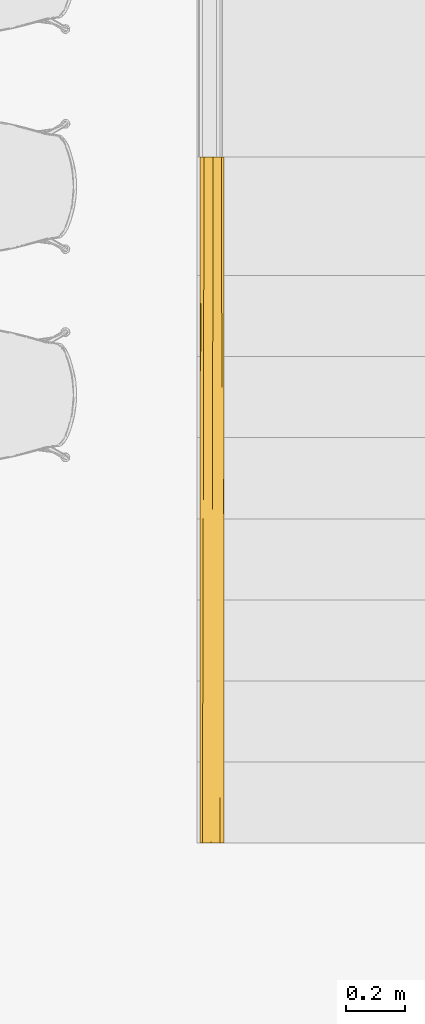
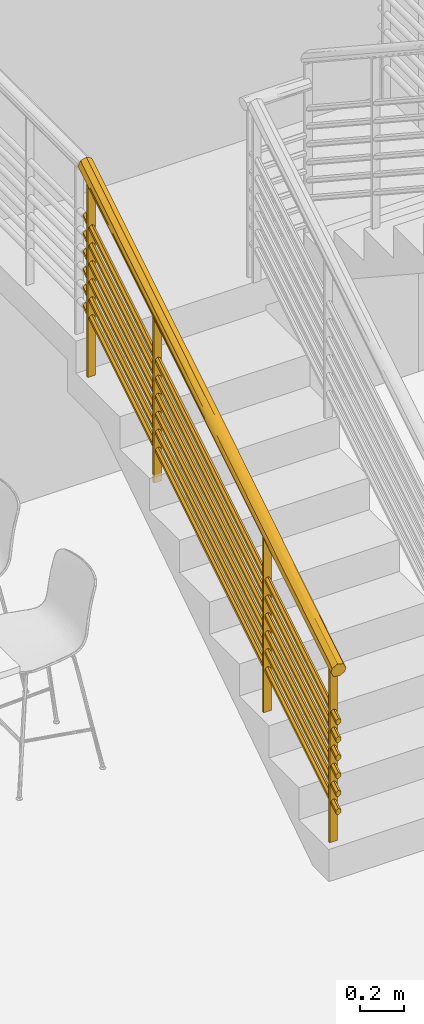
# One storey, part 20 of 40: 1 railing, 1 element without a shape of its own.
"""IFC2X3 building model written with IfcOpenShell, lengths in metres."""

from ifc_helpers import new_model, entity, si_unit, converted_unit, derived_unit, direction, frame, origin, place, context, subcontext, project, spatial, faceted_brep, material, material_list, element, aggregate, save


model = new_model("IFC2X3")

# Units and contexts
model_context = context("Model", 3, precision=1e-05, world=origin(), true_north=direction((6.12303176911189e-17, 1.0)))
body_context = subcontext(model_context, "Body", "Model", "MODEL_VIEW")
ifc_project = project(units=[si_unit("LENGTHUNIT", "METRE"), si_unit("AREAUNIT", "SQUARE_METRE"), si_unit("VOLUMEUNIT", "CUBIC_METRE"), converted_unit("PLANEANGLEUNIT", "DEGREE", entity("IfcRatioMeasure", 0.0174532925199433), si_unit("PLANEANGLEUNIT", "RADIAN"), dimensions=[0, 0, 0, 0, 0, 0, 0]), si_unit("MASSUNIT", "GRAM", prefix="KILO"), derived_unit("MASSDENSITYUNIT", [(si_unit("MASSUNIT", "GRAM", prefix="KILO"), 1), (si_unit("LENGTHUNIT", "METRE"), -3)]), si_unit("TIMEUNIT", "SECOND"), si_unit("FREQUENCYUNIT", "HERTZ"), si_unit("THERMODYNAMICTEMPERATUREUNIT", "DEGREE_CELSIUS"), derived_unit("THERMALTRANSMITTANCEUNIT", [(si_unit("MASSUNIT", "GRAM", prefix="KILO"), 1), (si_unit("THERMODYNAMICTEMPERATUREUNIT", "KELVIN"), -1), (si_unit("TIMEUNIT", "SECOND"), -3)]), derived_unit("VOLUMETRICFLOWRATEUNIT", [(si_unit("LENGTHUNIT", "METRE"), 3), (si_unit("TIMEUNIT", "SECOND"), -1)]), si_unit("ELECTRICCURRENTUNIT", "AMPERE"), si_unit("ELECTRICVOLTAGEUNIT", "VOLT"), si_unit("POWERUNIT", "WATT"), si_unit("FORCEUNIT", "NEWTON", prefix="KILO"), si_unit("ILLUMINANCEUNIT", "LUX"), si_unit("LUMINOUSFLUXUNIT", "LUMEN"), si_unit("LUMINOUSINTENSITYUNIT", "CANDELA"), derived_unit("USERDEFINED", [(si_unit("MASSUNIT", "GRAM", prefix="KILO"), -1), (si_unit("LENGTHUNIT", "METRE"), -2), (si_unit("TIMEUNIT", "SECOND"), 3), (si_unit("LUMINOUSFLUXUNIT", "LUMEN"), 1)]), derived_unit("LINEARVELOCITYUNIT", [(si_unit("LENGTHUNIT", "METRE"), 1), (si_unit("TIMEUNIT", "SECOND"), -1)]), si_unit("PRESSUREUNIT", "PASCAL"), derived_unit("USERDEFINED", [(si_unit("LENGTHUNIT", "METRE"), -2), (si_unit("MASSUNIT", "GRAM", prefix="KILO"), 1), (si_unit("TIMEUNIT", "SECOND"), -2)])], contexts=[model_context])

# Site, building, storey
site_placement = place(None, origin())
site = spatial("IfcSite", under=ifc_project, at=site_placement, Name="Surface", CompositionType="ELEMENT")
building_placement = place(site_placement, origin())
building = spatial("IfcBuilding", under=site, at=building_placement, CompositionType="ELEMENT")
storey_placement = place(building_placement, origin())
storey = spatial("IfcBuildingStorey", under=building, at=storey_placement, Name="RDC", CompositionType="ELEMENT", Elevation=-1.0941605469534e-13)

# Stair, railing
stair_placement = place(storey_placement, origin())
stair = element("IfcStair", 1, at=stair_placement, inside=storey, Name="Escalier:Monobloc", ObjectType="Escalier:Monobloc", ShapeType="NOTDEFINED")
ifc_material_1 = material(Name="Peinture - Grise")
ifc_material_2 = material(Name="Pin (1)")
ifc_material_list = material_list([ifc_material_1, ifc_material_2])
railing_placement = place(stair_placement, frame((1.30591583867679, 4.24201067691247, 0.178823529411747)))
railing = element("IfcRailing", 2, at=railing_placement, material=ifc_material_list, Name="Garde-corps:Type Bateau escalier 2", ObjectType="Garde-corps:Type Bateau escalier 2", PredefinedType="NOTDEFINED", context=body_context, shape_type="Brep", body=[
    faceted_brep([(0.0215952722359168, 1.65850000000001, 1.96334663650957), (0.0215952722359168, 1.64650000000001, 1.96334663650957), (0.0615952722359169, 1.64650000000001, 1.96334663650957), (0.0615952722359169, 1.65850000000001, 1.96334663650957), (0.0215952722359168, 1.65850000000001, 1.02875926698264), (0.0615952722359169, 1.65850000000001, 1.02875926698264), (0.0615952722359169, 1.64650000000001, 1.02875926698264), (0.0215952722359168, 1.64650000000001, 1.02875926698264)], [[[0, 1, 2, 3]], [[4, 5, 6, 7]], [[1, 0, 4, 7]], [[2, 1, 7, 6]], [[3, 2, 6, 5]], [[0, 3, 5, 4]]]),
    faceted_brep([(0.0215952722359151, 0.65850000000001, 1.34751680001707), (0.0215952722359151, 0.646500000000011, 1.34751680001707), (0.0615952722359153, 0.646500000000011, 1.34751680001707), (0.0615952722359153, 0.65850000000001, 1.34751680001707), (0.0215952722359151, 0.65850000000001, 0.357647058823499), (0.0615952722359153, 0.65850000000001, 0.357647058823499), (0.0615952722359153, 0.646500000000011, 0.357647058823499), (0.0215952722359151, 0.646500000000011, 0.357647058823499)], [[[0, 1, 2, 3]], [[4, 5, 6, 7]], [[1, 0, 4, 7]], [[2, 1, 7, 6]], [[3, 2, 6, 5]], [[0, 3, 5, 4]]]),
    faceted_brep([(0.0215952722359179, 2.26100000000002, 2.3343841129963), (0.0215952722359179, 2.24900000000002, 2.3343841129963), (0.061595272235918, 2.24900000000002, 2.3343841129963), (0.061595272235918, 2.26100000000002, 2.3343841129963), (0.0215952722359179, 2.26100000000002, 1.25176470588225), (0.061595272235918, 2.26100000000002, 1.25176470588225), (0.061595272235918, 2.24900000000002, 1.25176470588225), (0.0215952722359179, 2.24900000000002, 1.25176470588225)], [[[0, 1, 2, 3]], [[4, 5, 6, 7]], [[1, 0, 4, 7]], [[2, 1, 7, 6]], [[3, 2, 6, 5]], [[0, 3, 5, 4]]]),
    faceted_brep([(0.0215952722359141, 0.0560000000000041, 0.97647932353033), (0.0215952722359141, 0.0440000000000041, 0.97647932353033), (0.0615952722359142, 0.0440000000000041, 0.97647932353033), (0.0615952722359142, 0.0560000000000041, 0.97647932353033), (0.0215952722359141, 0.0560000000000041, 0.0), (0.0615952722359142, 0.0560000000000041, 0.0), (0.0615952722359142, 0.0440000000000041, 0.0), (0.0215952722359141, 0.0440000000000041, 0.0)], [[[0, 1, 2, 3]], [[4, 5, 6, 7]], [[1, 0, 4, 7]], [[2, 1, 7, 6]], [[3, 2, 6, 5]], [[0, 3, 5, 4]]]),
    faceted_brep([(0.0450328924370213, 0.0, 0.678198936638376), (0.0484705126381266, 0.0, 0.680529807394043), (0.0515280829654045, 0.0, 0.682602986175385), (0.0545856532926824, 0.0, 0.684676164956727), (0.0545856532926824, 0.0, 0.689080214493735), (0.0545856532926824, 0.0, 0.693484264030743), (0.0545856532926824, 0.0, 0.697888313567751), (0.0545856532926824, 0.0, 0.702292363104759), (0.0513380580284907, 0.0, 0.704494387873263), (0.0480904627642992, 0.0, 0.706696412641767), (0.0448428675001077, 0.0, 0.708898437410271), (0.041595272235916, 0.0, 0.711100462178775), (0.0381576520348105, 0.0, 0.708769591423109), (0.0351000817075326, 0.0, 0.706696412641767), (0.0318524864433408, 0.0, 0.704494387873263), (0.0286048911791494, 0.0, 0.702292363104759), (0.0286048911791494, 0.0, 0.697888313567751), (0.0286048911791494, 0.0, 0.693484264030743), (0.0286048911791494, 0.0, 0.689080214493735), (0.0286048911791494, 0.0, 0.684676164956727), (0.0318524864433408, 0.0, 0.682474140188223), (0.0351000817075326, 0.0, 0.680272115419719), (0.038157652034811, 0.0, 0.678198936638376), (0.0415952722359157, 0.0, 0.675868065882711), (0.0383476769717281, 2.30500000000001, 2.09755786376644), (0.0351000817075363, 2.30500000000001, 2.09975988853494), (0.0318524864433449, 2.30500000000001, 2.10196191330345), (0.0286048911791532, 2.30500000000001, 2.10416393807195), (0.0286048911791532, 2.30500000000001, 2.10856798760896), (0.0286048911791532, 2.30500000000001, 2.11297203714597), (0.0286048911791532, 2.30500000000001, 2.11737608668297), (0.0286048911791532, 2.30500000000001, 2.12178013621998), (0.0316624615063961, 2.30500000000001, 2.1238533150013), (0.0347200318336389, 2.30500000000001, 2.12592649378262), (0.0381576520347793, 2.30500000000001, 2.12825736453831), (0.0415952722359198, 2.30500000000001, 2.130588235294), (0.0450328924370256, 2.30500000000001, 2.12825736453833), (0.0480904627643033, 2.30500000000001, 2.12618418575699), (0.0513380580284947, 2.30500000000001, 2.12398216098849), (0.0545856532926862, 2.30500000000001, 2.12178013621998), (0.0545856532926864, 2.30500000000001, 2.11737608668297), (0.0545856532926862, 2.30500000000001, 2.11297203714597), (0.0545856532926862, 2.30500000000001, 2.10856798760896), (0.0545856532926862, 2.30500000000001, 2.10416393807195), (0.0513380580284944, 2.30500000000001, 2.10196191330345), (0.0480904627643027, 2.30500000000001, 2.09975988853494), (0.0450328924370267, 2.30500000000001, 2.0976867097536), (0.0415952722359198, 2.30500000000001, 2.09535583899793)], [[[0, 1, 2, 3, 4, 5, 6, 7, 8, 9, 10, 11, 12, 13, 14, 15, 16, 17, 18, 19, 20, 21, 22, 23]], [[24, 25, 26, 27, 28, 29, 30, 31, 32, 33, 34, 35, 36, 37, 38, 39, 40, 41, 42, 43, 44, 45, 46, 47]], [[40, 39, 7, 6, 5, 4, 3, 43, 42, 41]], [[45, 44, 43, 3, 2, 1, 0, 23, 47, 46]], [[35, 11, 10, 9, 8, 7, 39, 38, 37, 36]], [[15, 14, 13, 12, 11, 35, 34, 33, 32, 31]], [[21, 20, 19, 27, 26, 25, 24, 47, 23, 22]], [[18, 17, 16, 15, 31, 30, 29, 28, 27, 19]]]),
    faceted_brep([(0.0450328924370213, 0.0, 0.578198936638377), (0.0484705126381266, 0.0, 0.580529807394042), (0.0515280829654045, 0.0, 0.582602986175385), (0.0545856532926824, 0.0, 0.584676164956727), (0.0545856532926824, 0.0, 0.589080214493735), (0.0545856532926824, 0.0, 0.593484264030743), (0.0545856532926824, 0.0, 0.597888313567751), (0.0545856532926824, 0.0, 0.602292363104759), (0.0513380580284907, 0.0, 0.604494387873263), (0.0480904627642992, 0.0, 0.606696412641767), (0.0448428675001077, 0.0, 0.608898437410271), (0.041595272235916, 0.0, 0.611100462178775), (0.0381576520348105, 0.0, 0.608769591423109), (0.0351000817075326, 0.0, 0.606696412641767), (0.0318524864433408, 0.0, 0.604494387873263), (0.0286048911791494, 0.0, 0.602292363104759), (0.0286048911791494, 0.0, 0.597888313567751), (0.0286048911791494, 0.0, 0.593484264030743), (0.0286048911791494, 0.0, 0.589080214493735), (0.0286048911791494, 0.0, 0.584676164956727), (0.0318524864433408, 0.0, 0.582474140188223), (0.0351000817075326, 0.0, 0.580272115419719), (0.038157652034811, 0.0, 0.578198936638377), (0.0415952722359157, 0.0, 0.575868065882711), (0.0383476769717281, 2.30500000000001, 1.99755786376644), (0.0351000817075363, 2.30500000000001, 1.99975988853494), (0.0318524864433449, 2.30500000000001, 2.00196191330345), (0.0286048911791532, 2.30500000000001, 2.00416393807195), (0.0286048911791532, 2.30500000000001, 2.00856798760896), (0.0286048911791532, 2.30500000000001, 2.01297203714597), (0.0286048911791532, 2.30500000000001, 2.01737608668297), (0.0286048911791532, 2.30500000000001, 2.02178013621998), (0.0316624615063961, 2.30500000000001, 2.0238533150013), (0.0347200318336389, 2.30500000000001, 2.02592649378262), (0.0381576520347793, 2.30500000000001, 2.02825736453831), (0.0415952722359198, 2.30500000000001, 2.030588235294), (0.0450328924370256, 2.30500000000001, 2.02825736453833), (0.0480904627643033, 2.30500000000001, 2.02618418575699), (0.0513380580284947, 2.30500000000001, 2.02398216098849), (0.0545856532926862, 2.30500000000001, 2.02178013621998), (0.0545856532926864, 2.30500000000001, 2.01737608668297), (0.0545856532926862, 2.30500000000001, 2.01297203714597), (0.0545856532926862, 2.30500000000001, 2.00856798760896), (0.0545856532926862, 2.30500000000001, 2.00416393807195), (0.0513380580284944, 2.30500000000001, 2.00196191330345), (0.0480904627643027, 2.30500000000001, 1.99975988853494), (0.0450328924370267, 2.30500000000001, 1.9976867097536), (0.0415952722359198, 2.30500000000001, 1.99535583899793)], [[[0, 1, 2, 3, 4, 5, 6, 7, 8, 9, 10, 11, 12, 13, 14, 15, 16, 17, 18, 19, 20, 21, 22, 23]], [[24, 25, 26, 27, 28, 29, 30, 31, 32, 33, 34, 35, 36, 37, 38, 39, 40, 41, 42, 43, 44, 45, 46, 47]], [[40, 39, 7, 6, 5, 4, 3, 43, 42, 41]], [[45, 44, 43, 3, 2, 1, 0, 23, 47, 46]], [[35, 11, 10, 9, 8, 7, 39, 38, 37, 36]], [[15, 14, 13, 12, 11, 35, 34, 33, 32, 31]], [[21, 20, 19, 27, 26, 25, 24, 47, 23, 22]], [[18, 17, 16, 15, 31, 30, 29, 28, 27, 19]]]),
    faceted_brep([(0.0450328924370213, 0.0, 0.478198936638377), (0.0484705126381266, 0.0, 0.480529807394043), (0.0515280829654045, 0.0, 0.482602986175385), (0.0545856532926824, 0.0, 0.484676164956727), (0.0545856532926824, 0.0, 0.489080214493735), (0.0545856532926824, 0.0, 0.493484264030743), (0.0545856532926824, 0.0, 0.497888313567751), (0.0545856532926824, 0.0, 0.502292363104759), (0.0513380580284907, 0.0, 0.504494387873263), (0.0480904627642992, 0.0, 0.506696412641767), (0.0448428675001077, 0.0, 0.508898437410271), (0.041595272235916, 0.0, 0.511100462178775), (0.0381576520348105, 0.0, 0.508769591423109), (0.0351000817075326, 0.0, 0.506696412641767), (0.0318524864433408, 0.0, 0.504494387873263), (0.0286048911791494, 0.0, 0.502292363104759), (0.0286048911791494, 0.0, 0.497888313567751), (0.0286048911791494, 0.0, 0.493484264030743), (0.0286048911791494, 0.0, 0.489080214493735), (0.0286048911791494, 0.0, 0.484676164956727), (0.0318524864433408, 0.0, 0.482474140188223), (0.0351000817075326, 0.0, 0.480272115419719), (0.038157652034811, 0.0, 0.478198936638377), (0.0415952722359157, 0.0, 0.475868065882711), (0.0383476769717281, 2.30500000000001, 1.89755786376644), (0.0351000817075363, 2.30500000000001, 1.89975988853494), (0.0318524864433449, 2.30500000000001, 1.90196191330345), (0.0286048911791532, 2.30500000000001, 1.90416393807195), (0.0286048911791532, 2.30500000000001, 1.90856798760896), (0.0286048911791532, 2.30500000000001, 1.91297203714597), (0.0286048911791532, 2.30500000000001, 1.91737608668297), (0.0286048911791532, 2.30500000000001, 1.92178013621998), (0.0316624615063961, 2.30500000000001, 1.9238533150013), (0.0347200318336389, 2.30500000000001, 1.92592649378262), (0.0381576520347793, 2.30500000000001, 1.92825736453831), (0.0415952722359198, 2.30500000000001, 1.930588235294), (0.0450328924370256, 2.30500000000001, 1.92825736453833), (0.0480904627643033, 2.30500000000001, 1.92618418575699), (0.0513380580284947, 2.30500000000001, 1.92398216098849), (0.0545856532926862, 2.30500000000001, 1.92178013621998), (0.0545856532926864, 2.30500000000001, 1.91737608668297), (0.0545856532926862, 2.30500000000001, 1.91297203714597), (0.0545856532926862, 2.30500000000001, 1.90856798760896), (0.0545856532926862, 2.30500000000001, 1.90416393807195), (0.0513380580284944, 2.30500000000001, 1.90196191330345), (0.0480904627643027, 2.30500000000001, 1.89975988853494), (0.0450328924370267, 2.30500000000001, 1.8976867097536), (0.0415952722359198, 2.30500000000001, 1.89535583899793)], [[[0, 1, 2, 3, 4, 5, 6, 7, 8, 9, 10, 11, 12, 13, 14, 15, 16, 17, 18, 19, 20, 21, 22, 23]], [[24, 25, 26, 27, 28, 29, 30, 31, 32, 33, 34, 35, 36, 37, 38, 39, 40, 41, 42, 43, 44, 45, 46, 47]], [[40, 39, 7, 6, 5, 4, 3, 43, 42, 41]], [[45, 44, 43, 3, 2, 1, 0, 23, 47, 46]], [[35, 11, 10, 9, 8, 7, 39, 38, 37, 36]], [[15, 14, 13, 12, 11, 35, 34, 33, 32, 31]], [[21, 20, 19, 27, 26, 25, 24, 47, 23, 22]], [[18, 17, 16, 15, 31, 30, 29, 28, 27, 19]]]),
    faceted_brep([(0.045032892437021, 0.0, 0.378198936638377), (0.0484705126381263, 0.0, 0.380529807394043), (0.0515280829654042, 0.0, 0.382602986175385), (0.0545856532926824, 0.0, 0.384676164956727), (0.0545856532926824, 0.0, 0.389080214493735), (0.0545856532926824, 0.0, 0.393484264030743), (0.0545856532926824, 0.0, 0.397888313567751), (0.0545856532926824, 0.0, 0.402292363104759), (0.0513380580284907, 0.0, 0.404494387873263), (0.0480904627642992, 0.0, 0.406696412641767), (0.0448428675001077, 0.0, 0.408898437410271), (0.041595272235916, 0.0, 0.411100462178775), (0.0381576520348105, 0.0, 0.408769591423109), (0.0351000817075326, 0.0, 0.406696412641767), (0.0318524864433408, 0.0, 0.404494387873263), (0.0286048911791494, 0.0, 0.402292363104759), (0.0286048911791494, 0.0, 0.397888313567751), (0.0286048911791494, 0.0, 0.393484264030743), (0.0286048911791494, 0.0, 0.389080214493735), (0.0286048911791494, 0.0, 0.384676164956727), (0.0318524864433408, 0.0, 0.382474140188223), (0.0351000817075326, 0.0, 0.380272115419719), (0.0381576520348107, 0.0, 0.378198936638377), (0.0415952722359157, 0.0, 0.375868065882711), (0.0383476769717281, 2.30500000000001, 1.79755786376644), (0.0351000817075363, 2.30500000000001, 1.79975988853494), (0.0318524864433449, 2.30500000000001, 1.80196191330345), (0.0286048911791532, 2.30500000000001, 1.80416393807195), (0.0286048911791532, 2.30500000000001, 1.80856798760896), (0.0286048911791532, 2.30500000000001, 1.81297203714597), (0.0286048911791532, 2.30500000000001, 1.81737608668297), (0.0286048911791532, 2.30500000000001, 1.82178013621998), (0.0316624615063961, 2.30500000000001, 1.8238533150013), (0.0347200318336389, 2.30500000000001, 1.82592649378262), (0.0381576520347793, 2.30500000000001, 1.82825736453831), (0.0415952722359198, 2.30500000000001, 1.830588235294), (0.0450328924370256, 2.30500000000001, 1.82825736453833), (0.048090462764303, 2.30500000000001, 1.82618418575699), (0.0513380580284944, 2.30500000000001, 1.82398216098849), (0.0545856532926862, 2.30500000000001, 1.82178013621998), (0.0545856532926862, 2.30500000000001, 1.81737608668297), (0.0545856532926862, 2.30500000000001, 1.81297203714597), (0.0545856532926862, 2.30500000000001, 1.80856798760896), (0.0545856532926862, 2.30500000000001, 1.80416393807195), (0.0513380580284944, 2.30500000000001, 1.80196191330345), (0.0480904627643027, 2.30500000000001, 1.79975988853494), (0.0450328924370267, 2.30500000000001, 1.7976867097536), (0.0415952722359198, 2.30500000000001, 1.79535583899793)], [[[0, 1, 2, 3, 4, 5, 6, 7, 8, 9, 10, 11, 12, 13, 14, 15, 16, 17, 18, 19, 20, 21, 22, 23]], [[24, 25, 26, 27, 28, 29, 30, 31, 32, 33, 34, 35, 36, 37, 38, 39, 40, 41, 42, 43, 44, 45, 46, 47]], [[40, 39, 7, 6, 5, 4, 3, 43, 42, 41]], [[45, 44, 43, 3, 2, 1, 0, 23, 47, 46]], [[35, 11, 10, 9, 8, 7, 39, 38, 37, 36]], [[15, 14, 13, 12, 11, 35, 34, 33, 32, 31]], [[21, 20, 19, 27, 26, 25, 24, 47, 23, 22]], [[18, 17, 16, 15, 31, 30, 29, 28, 27, 19]]]),
    faceted_brep([(0.045032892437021, 0.0, 0.278198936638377), (0.0484705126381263, 0.0, 0.280529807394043), (0.0515280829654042, 0.0, 0.282602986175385), (0.0545856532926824, 0.0, 0.284676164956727), (0.0545856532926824, 0.0, 0.289080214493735), (0.0545856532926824, 0.0, 0.293484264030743), (0.0545856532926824, 0.0, 0.297888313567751), (0.0545856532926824, 0.0, 0.302292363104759), (0.0513380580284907, 0.0, 0.304494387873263), (0.0480904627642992, 0.0, 0.306696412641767), (0.0448428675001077, 0.0, 0.308898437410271), (0.041595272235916, 0.0, 0.311100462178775), (0.0381576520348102, 0.0, 0.308769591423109), (0.0351000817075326, 0.0, 0.306696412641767), (0.0318524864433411, 0.0, 0.304494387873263), (0.0286048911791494, 0.0, 0.302292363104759), (0.0286048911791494, 0.0, 0.297888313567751), (0.0286048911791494, 0.0, 0.293484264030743), (0.0286048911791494, 0.0, 0.289080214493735), (0.0286048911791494, 0.0, 0.284676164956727), (0.0318524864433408, 0.0, 0.282474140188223), (0.0351000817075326, 0.0, 0.280272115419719), (0.038157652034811, 0.0, 0.278198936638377), (0.0415952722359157, 0.0, 0.275868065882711), (0.0383476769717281, 2.30500000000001, 1.69755786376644), (0.0351000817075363, 2.30500000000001, 1.69975988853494), (0.0318524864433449, 2.30500000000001, 1.70196191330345), (0.0286048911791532, 2.30500000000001, 1.70416393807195), (0.0286048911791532, 2.30500000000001, 1.70856798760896), (0.0286048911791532, 2.30500000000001, 1.71297203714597), (0.0286048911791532, 2.30500000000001, 1.71737608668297), (0.0286048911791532, 2.30500000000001, 1.72178013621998), (0.0316624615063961, 2.30500000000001, 1.7238533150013), (0.0347200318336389, 2.30500000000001, 1.72592649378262), (0.0381576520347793, 2.30500000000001, 1.72825736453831), (0.0415952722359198, 2.30500000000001, 1.730588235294), (0.0450328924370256, 2.30500000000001, 1.72825736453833), (0.0480904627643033, 2.30500000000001, 1.72618418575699), (0.0513380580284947, 2.30500000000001, 1.72398216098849), (0.0545856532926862, 2.30500000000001, 1.72178013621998), (0.0545856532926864, 2.30500000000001, 1.71737608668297), (0.0545856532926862, 2.30500000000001, 1.71297203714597), (0.0545856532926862, 2.30500000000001, 1.70856798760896), (0.0545856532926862, 2.30500000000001, 1.70416393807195), (0.0513380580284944, 2.30500000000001, 1.70196191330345), (0.0480904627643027, 2.30500000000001, 1.69975988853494), (0.0450328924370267, 2.30500000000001, 1.6976867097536), (0.0415952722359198, 2.30500000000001, 1.69535583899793)], [[[0, 1, 2, 3, 4, 5, 6, 7, 8, 9, 10, 11, 12, 13, 14, 15, 16, 17, 18, 19, 20, 21, 22, 23]], [[24, 25, 26, 27, 28, 29, 30, 31, 32, 33, 34, 35, 36, 37, 38, 39, 40, 41, 42, 43, 44, 45, 46, 47]], [[40, 39, 7, 6, 5, 4, 3, 43, 42, 41]], [[45, 44, 43, 3, 2, 1, 0, 23, 47, 46]], [[35, 11, 10, 9, 8, 7, 39, 38, 37, 36]], [[15, 14, 13, 12, 11, 35, 34, 33, 32, 31]], [[21, 20, 19, 27, 26, 25, 24, 47, 23, 22]], [[18, 17, 16, 15, 31, 30, 29, 28, 27, 19]]]),
    faceted_brep([(0.045032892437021, 0.0, 0.178198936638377), (0.0484705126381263, 0.0, 0.180529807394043), (0.0515280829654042, 0.0, 0.182602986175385), (0.0545856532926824, 0.0, 0.184676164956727), (0.0545856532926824, 0.0, 0.189080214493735), (0.0545856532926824, 0.0, 0.193484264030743), (0.0545856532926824, 0.0, 0.197888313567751), (0.0545856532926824, 0.0, 0.202292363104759), (0.0513380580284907, 0.0, 0.204494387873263), (0.0480904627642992, 0.0, 0.206696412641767), (0.0448428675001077, 0.0, 0.208898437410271), (0.041595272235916, 0.0, 0.211100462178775), (0.0381576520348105, 0.0, 0.208769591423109), (0.0351000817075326, 0.0, 0.206696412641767), (0.0318524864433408, 0.0, 0.204494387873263), (0.0286048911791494, 0.0, 0.202292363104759), (0.0286048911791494, 0.0, 0.197888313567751), (0.0286048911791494, 0.0, 0.193484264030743), (0.0286048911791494, 0.0, 0.189080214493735), (0.0286048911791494, 0.0, 0.184676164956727), (0.0318524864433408, 0.0, 0.182474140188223), (0.0351000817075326, 0.0, 0.180272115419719), (0.0381576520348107, 0.0, 0.178198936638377), (0.0415952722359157, 0.0, 0.175868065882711), (0.0383476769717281, 2.30500000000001, 1.59755786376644), (0.0351000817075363, 2.30500000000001, 1.59975988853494), (0.0318524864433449, 2.30500000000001, 1.60196191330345), (0.0286048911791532, 2.30500000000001, 1.60416393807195), (0.0286048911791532, 2.30500000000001, 1.60856798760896), (0.0286048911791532, 2.30500000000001, 1.61297203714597), (0.0286048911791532, 2.30500000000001, 1.61737608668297), (0.0286048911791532, 2.30500000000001, 1.62178013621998), (0.0316624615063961, 2.30500000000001, 1.6238533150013), (0.0347200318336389, 2.30500000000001, 1.62592649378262), (0.0381576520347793, 2.30500000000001, 1.62825736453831), (0.0415952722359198, 2.30500000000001, 1.630588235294), (0.0450328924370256, 2.30500000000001, 1.62825736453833), (0.048090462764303, 2.30500000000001, 1.62618418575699), (0.0513380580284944, 2.30500000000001, 1.62398216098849), (0.0545856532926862, 2.30500000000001, 1.62178013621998), (0.0545856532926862, 2.30500000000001, 1.61737608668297), (0.0545856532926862, 2.30500000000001, 1.61297203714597), (0.0545856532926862, 2.30500000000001, 1.60856798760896), (0.0545856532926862, 2.30500000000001, 1.60416393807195), (0.0513380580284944, 2.30500000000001, 1.60196191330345), (0.0480904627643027, 2.30500000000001, 1.59975988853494), (0.0450328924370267, 2.30500000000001, 1.5976867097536), (0.0415952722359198, 2.30500000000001, 1.59535583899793)], [[[0, 1, 2, 3, 4, 5, 6, 7, 8, 9, 10, 11, 12, 13, 14, 15, 16, 17, 18, 19, 20, 21, 22, 23]], [[24, 25, 26, 27, 28, 29, 30, 31, 32, 33, 34, 35, 36, 37, 38, 39, 40, 41, 42, 43, 44, 45, 46, 47]], [[40, 39, 7, 6, 5, 4, 3, 43, 42, 41]], [[45, 44, 43, 3, 2, 1, 0, 23, 47, 46]], [[35, 11, 10, 9, 8, 7, 39, 38, 37, 36]], [[15, 14, 13, 12, 11, 35, 34, 33, 32, 31]], [[21, 20, 19, 27, 26, 25, 24, 47, 23, 22]], [[18, 17, 16, 15, 31, 30, 29, 28, 27, 19]]]),
    faceted_brep([(0.0683604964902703, 0.0, 1.00728323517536), (0.0528873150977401, 0.0, 1.01171154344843), (0.03741413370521, 0.0, 1.0161398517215), (0.023324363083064, 0.0, 1.00897469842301), (0.00923459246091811, 0.0, 1.00180954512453), (0.005414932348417, 0.0, 0.991455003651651), (0.0015952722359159, 0.0, 0.981100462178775), (0.0082126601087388, 0.0, 0.968009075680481), (0.0148300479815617, 0.0, 0.954917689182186), (0.0303032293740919, 0.0, 0.950489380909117), (0.038039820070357, 0.0, 0.948275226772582), (0.0457764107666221, 0.0, 0.946061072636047), (0.059866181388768, 0.0, 0.953226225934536), (0.0739559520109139, 0.0, 0.960391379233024), (0.0777756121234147, 0.0, 0.970745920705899), (0.0815952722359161, 0.0, 0.981100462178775), (0.0749778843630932, 0.0, 0.99419184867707), (0.0148300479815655, 2.30500000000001, 2.42677100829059), (0.0303032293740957, 2.30500000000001, 2.43119931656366), (0.0457764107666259, 2.30500000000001, 2.43562762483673), (0.052821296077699, 2.30500000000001, 2.43204504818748), (0.0598661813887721, 2.30500000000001, 2.42846247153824), (0.0739559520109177, 2.30500000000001, 2.42129731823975), (0.0777756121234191, 2.30500000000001, 2.41094277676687), (0.0815952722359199, 2.30500000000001, 2.400588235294), (0.074977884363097, 2.30500000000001, 2.3874968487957), (0.0683604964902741, 2.30500000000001, 2.37440546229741), (0.0528873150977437, 2.30500000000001, 2.36997715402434), (0.0374141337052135, 2.30500000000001, 2.36554884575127), (0.0233243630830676, 2.30500000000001, 2.37271399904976), (0.0092345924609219, 2.30500000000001, 2.37987915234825), (0.00541493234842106, 2.30500000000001, 2.39023369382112), (0.00159527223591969, 2.30500000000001, 2.400588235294), (0.00509178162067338, 2.30500000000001, 2.40750548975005), (0.00821266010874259, 2.30500000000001, 2.41367962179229), (0.0043094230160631, 1.15660257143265, 1.68061381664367), (0.0264633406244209, 1.21055936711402, 1.69398498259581), (0.016837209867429, 1.22433967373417, 1.70741281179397), (0.00925024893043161, 0.961078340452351, 1.55223312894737), (0.00159527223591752, 0.993250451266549, 1.59277372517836), (0.00159527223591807, 1.31174686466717, 1.78891331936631), (0.0631160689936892, 1.26387565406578, 1.72973428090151), (0.052995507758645, 1.00743554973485, 1.56773817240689), (0.0416060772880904, 1.153080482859, 1.65596943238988), (0.071499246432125, 1.16471981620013, 1.67497008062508), (0.0775929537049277, 1.07664119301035, 1.62876657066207), (0.0815952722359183, 1.31174686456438, 1.78891331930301), (0.0815952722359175, 0.993257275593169, 1.5927779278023), (0.0795847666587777, 1.10875988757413, 1.67493730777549), (0.0749540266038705, 1.04002203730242, 1.64101870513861), (0.0675712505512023, 1.29616232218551, 1.80610827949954), (0.0578487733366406, 1.15198264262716, 1.72271839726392), (0.00269876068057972, 0.996722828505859, 1.60313066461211), (0.0425731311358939, 1.10767920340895, 1.69846423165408), (0.0315433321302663, 1.07027878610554, 1.67431184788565), (0.0122749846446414, 1.12480138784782, 1.69775252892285), (0.00594101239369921, 1.05554563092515, 1.64710790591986), (0.0213993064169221, 1.33230766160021, 1.83198711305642)], [[[0, 1, 2, 3, 4, 5, 6, 7, 8, 9, 10, 11, 12, 13, 14, 15, 16]], [[17, 18, 19, 20, 21, 22, 23, 24, 25, 26, 27, 28, 29, 30, 31, 32, 33, 34]], [[35, 7, 6]], [[9, 8, 36, 10]], [[30, 37, 38]], [[37, 36, 8]], [[29, 36, 37]], [[35, 6, 39, 40]], [[41, 42, 27]], [[38, 7, 35]], [[27, 42, 43]], [[44, 41, 26]], [[13, 45, 14]], [[8, 38, 37]], [[44, 12, 41]], [[38, 8, 7]], [[11, 43, 42]], [[25, 24, 46, 47]], [[35, 31, 30]], [[11, 10, 43]], [[40, 32, 31]], [[29, 37, 30]], [[36, 29, 28]], [[36, 28, 43]], [[36, 43, 10]], [[43, 28, 27]], [[42, 12, 11]], [[12, 42, 41]], [[13, 12, 44]], [[26, 41, 27]], [[47, 15, 14]], [[44, 26, 25]], [[25, 45, 44]], [[38, 35, 30]], [[45, 25, 47]], [[31, 35, 40]], [[44, 45, 13]], [[14, 45, 47]], [[48, 23, 49]], [[0, 49, 50]], [[50, 21, 51]], [[21, 20, 51]], [[52, 34, 33]], [[2, 53, 54]], [[55, 17, 34]], [[55, 56, 4]], [[34, 52, 56]], [[48, 16, 15]], [[55, 34, 56]], [[5, 4, 56]], [[33, 32, 40, 39]], [[57, 55, 3]], [[57, 3, 54]], [[51, 0, 50]], [[17, 55, 57]], [[52, 39, 6]], [[54, 53, 18]], [[55, 4, 3]], [[57, 18, 17]], [[18, 57, 54]], [[5, 56, 52]], [[19, 18, 53]], [[2, 54, 3]], [[20, 19, 53]], [[53, 2, 1]], [[1, 0, 51]], [[53, 51, 20]], [[1, 51, 53]], [[50, 22, 21]], [[22, 50, 49]], [[23, 22, 49]], [[16, 49, 0]], [[49, 16, 48]], [[46, 24, 23]], [[48, 46, 23]], [[48, 15, 47, 46]], [[5, 52, 6]], [[39, 52, 33]]]),
])
aggregate(stair, [railing])

save(model, "model.ifc")
